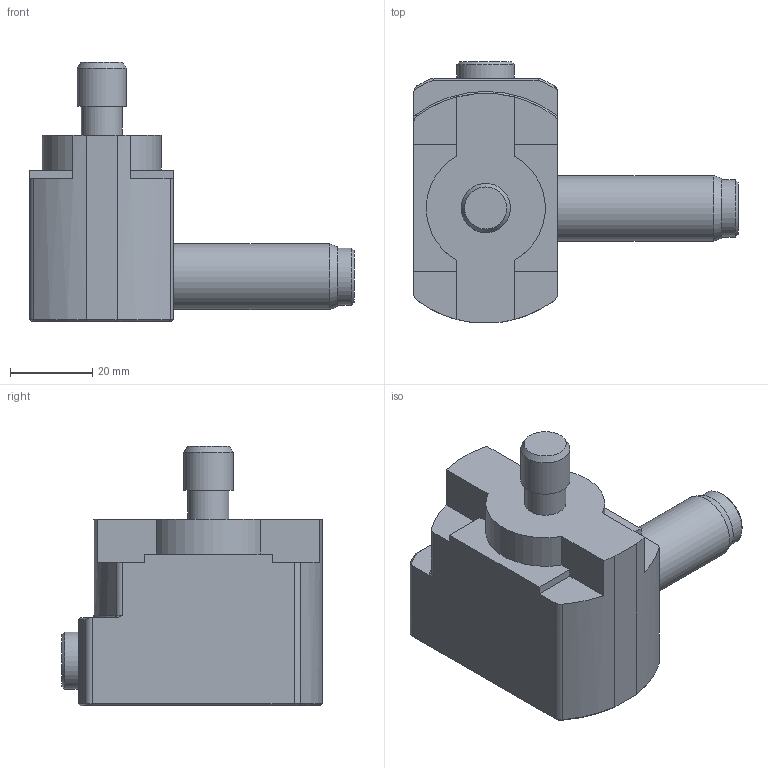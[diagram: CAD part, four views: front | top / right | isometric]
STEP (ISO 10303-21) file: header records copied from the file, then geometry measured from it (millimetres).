
FILE_DESCRIPTION (( 'STEP AP214' ), '1' );
FILE_NAME ('97-000-160_90 - light.STEP', '2025-06-12T15:35:12', ( 'pc' ), ( '' ), 'SwSTEP 2.0', 'SolidWorks 2024', '' );
FILE_SCHEMA (( 'AUTOMOTIVE_DESIGN' ));
Length unit declared in the file: millimetre
Products named in the file (1): 97-000-160_90 - light
Bounding box: 79 x 63.5 x 63.3 mm (x, y, z)
Volume: 90510.5 mm3; surface area: 14499.6 mm2
Topology: 1 solids, 1 shells, 66 faces, 161 edges, 102 vertices
Faces by surface type: plane 31, cylinder 18, cone 14, torus 3
Full cylindrical faces by diameter (mm): 10 x1, 12 x1, 14 x2, 16 x1
Entity records: 1943 total; most frequent: CARTESIAN_POINT 398, DIRECTION 331, ORIENTED_EDGE 296, EDGE_CURVE 148, AXIS2_PLACEMENT_3D 126, VERTEX_POINT 98, EDGE_LOOP 80, LINE 79
